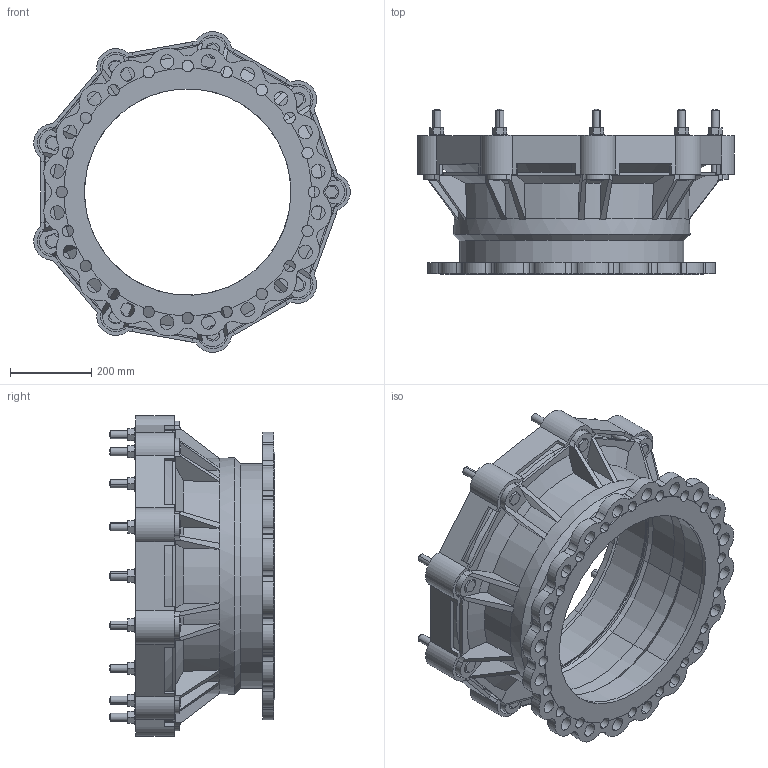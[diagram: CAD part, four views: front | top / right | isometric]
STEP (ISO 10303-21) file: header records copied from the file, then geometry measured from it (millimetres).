
FILE_DESCRIPTION((''),'2;1');
FILE_NAME('BIM_13199_3_ASM','2018-11-07T',('MReader'),(''),'CREO PARAMETRIC BY PTC INC, 2016130','CREO PARAMETRIC BY PTC INC, 2016130','');
FILE_SCHEMA(('CONFIG_CONTROL_DESIGN'));
Length unit declared in the file: millimetre
Products named in the file (6): 498-552X500; 498-552_GASKET_BIM; _BIM_13417_2; BIM_M20_BOLT; BIM_M20_NUT; BIM_13199_3_ASM
Assembly tree (21 placements, depth 2):
  BIM_13199_3_ASM
    498-552X500
    498-552_GASKET_BIM
    _BIM_13417_2
    BIM_M20_BOLT  x9
    BIM_M20_NUT  x9
Bounding box: 778.47 x 406 x 789.04 mm (x, y, z)
Volume: 20449268.1 mm3; surface area: 3218866.4 mm2
Topology: 21 solids, 21 shells, 730 faces, 2022 edges, 1327 vertices
Faces by surface type: cylinder 329, plane 325, cone 58, sphere 18
Entity records: 19097 total; most frequent: CARTESIAN_POINT 3672, DIRECTION 3320, ORIENTED_EDGE 3208, EDGE_CURVE 1604, AXIS2_PLACEMENT_3D 1305, VERTEX_POINT 1063, CIRCLE 732, VECTOR 710
